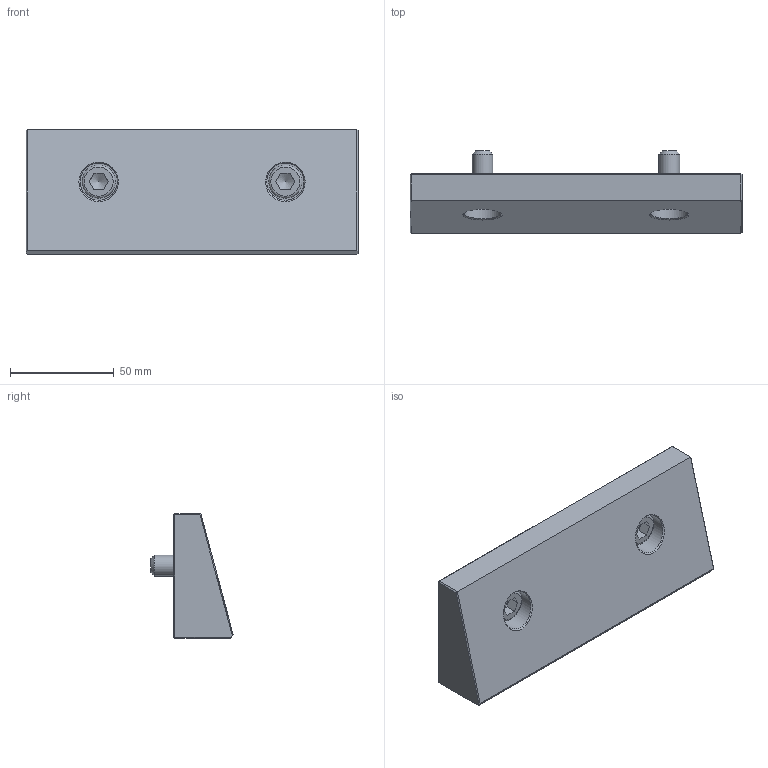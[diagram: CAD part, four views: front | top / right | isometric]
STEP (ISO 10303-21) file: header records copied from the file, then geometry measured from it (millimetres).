
FILE_DESCRIPTION(('STEP AP214'), '1');
FILE_NAME('BB.VS.160.70.030', '', ('UNSPECIFIED'), ('UNSPECIFIED'), 'C3D Converter', 'C3D Toolkit', '');
FILE_SCHEMA(('AUTOMOTIVE_DESIGN { 1 0 10303 214 3 1 1}'));
Length unit declared in the file: millimetre
Products named in the file (1): BB.VS.160.70.030 СБ
Bounding box: 160 x 39.56 x 60 mm (x, y, z)
Volume: 198946.6 mm3; surface area: 32566.7 mm2
Topology: 1 solids, 1 shells, 63 faces, 135 edges, 82 vertices
Faces by surface type: plane 41, cone 8, cylinder 8, torus 4, bspline 2
Full cylindrical faces by diameter (mm): 10 x2, 11 x2, 16 x2, 18 x2
Entity records: 3282 total; most frequent: CARTESIAN_POINT 1507, DIRECTION 241, ORIENTED_EDGE 222, EDGE_CURVE 111, EDGE_LOOP 93, AXIS2_PLACEMENT_3D 86, VERTEX_POINT 80, LINE 69
